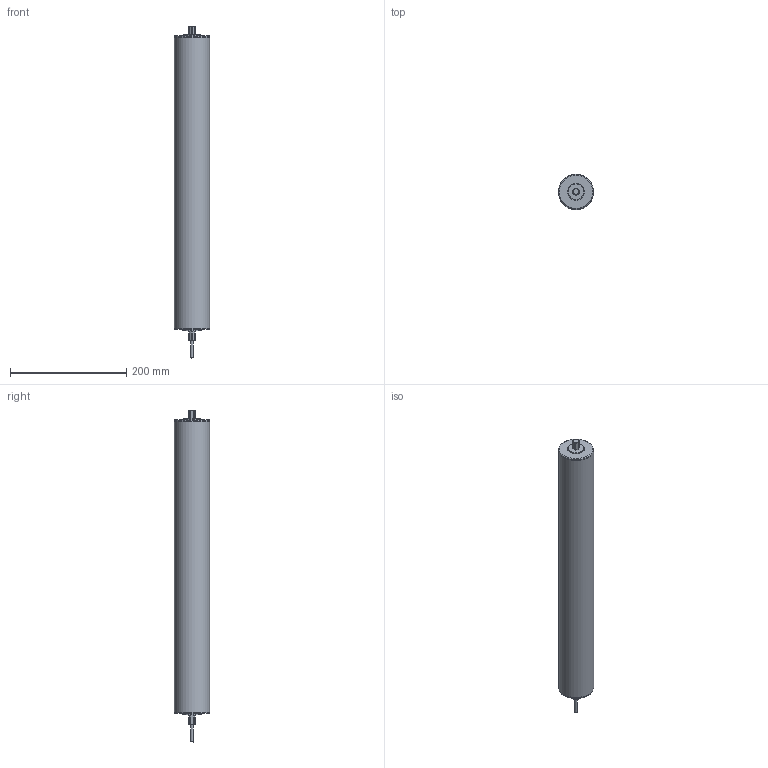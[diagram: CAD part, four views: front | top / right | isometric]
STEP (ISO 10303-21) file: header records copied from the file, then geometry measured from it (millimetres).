
FILE_DESCRIPTION(/* description */ (''),/* implementation_level */ '2;1');
FILE_NAME(/* name */ 'PM605FE-()-500-D-024.step',/* time_stamp */ '2023-08-08T09:36:52-04:00',/* author */ (''),/* organization */ (''),/* preprocessor_version */ 'ST-DEVELOPER v20',/* originating_system */ 'Autodesk Translation Framework v12.9.0.99',/* authorisation */ '');
FILE_SCHEMA (('AUTOMOTIVE_DESIGN { 1 0 10303 214 3 1 1 }'));
Length unit declared in the file: millimetre
Products named in the file (1): (Unsaved)
Bounding box: 60.5 x 60.5 x 571.6 mm (x, y, z)
Volume: 1460288.7 mm3; surface area: 103872.1 mm2
Topology: 1 solids, 1 shells, 48 faces, 113 edges, 75 vertices
Faces by surface type: cylinder 21, plane 21, torus 4, cone 2
Full cylindrical faces by diameter (mm): 5 x1, 28.9 x1, 30.9 x1, 33.9 x1, 60.2 x1, 60.3 x1, 60.5 x1
Entity records: 1477 total; most frequent: CARTESIAN_POINT 319, DIRECTION 250, ORIENTED_EDGE 226, EDGE_CURVE 113, AXIS2_PLACEMENT_3D 102, VERTEX_POINT 75, EDGE_LOOP 56, CIRCLE 53
